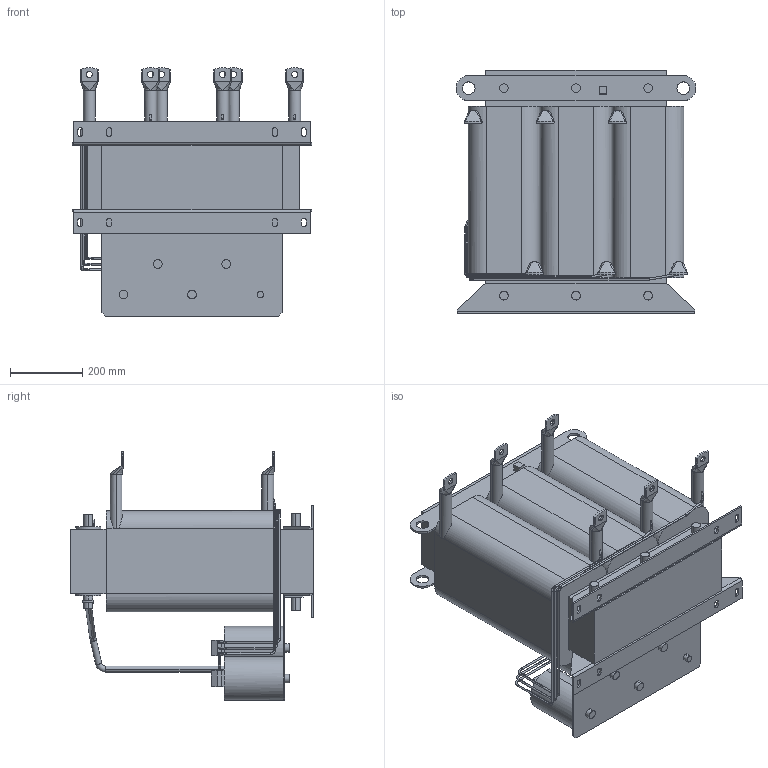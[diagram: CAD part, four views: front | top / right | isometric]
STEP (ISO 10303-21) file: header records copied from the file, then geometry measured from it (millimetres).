
FILE_DESCRIPTION (( 'STEP AP214' ), '1' );
FILE_NAME ('00Z1GX4-0032.STEP', '2022-12-14T10:39:23', ( '' ), ( '' ), 'SwSTEP 2.0', 'SolidWorks 2022', '' );
FILE_SCHEMA (( 'AUTOMOTIVE_DESIGN' ));
Length unit declared in the file: centimetre
Products named in the file (1): 00Z1GX4-0032
Bounding box: 665 x 676 x 690.3 mm (x, y, z)
Volume: 105723129.9 mm3; surface area: 2965994.3 mm2
Topology: 1 solids, 1 shells, 673 faces, 1785 edges, 1133 vertices
Faces by surface type: plane 280, cylinder 260, bspline 83, torus 50
Entity records: 27391 total; most frequent: CARTESIAN_POINT 10783, ORIENTED_EDGE 3570, DIRECTION 3155, EDGE_CURVE 1785, AXIS2_PLACEMENT_3D 1137, VERTEX_POINT 1133, VECTOR 881, LINE 881
